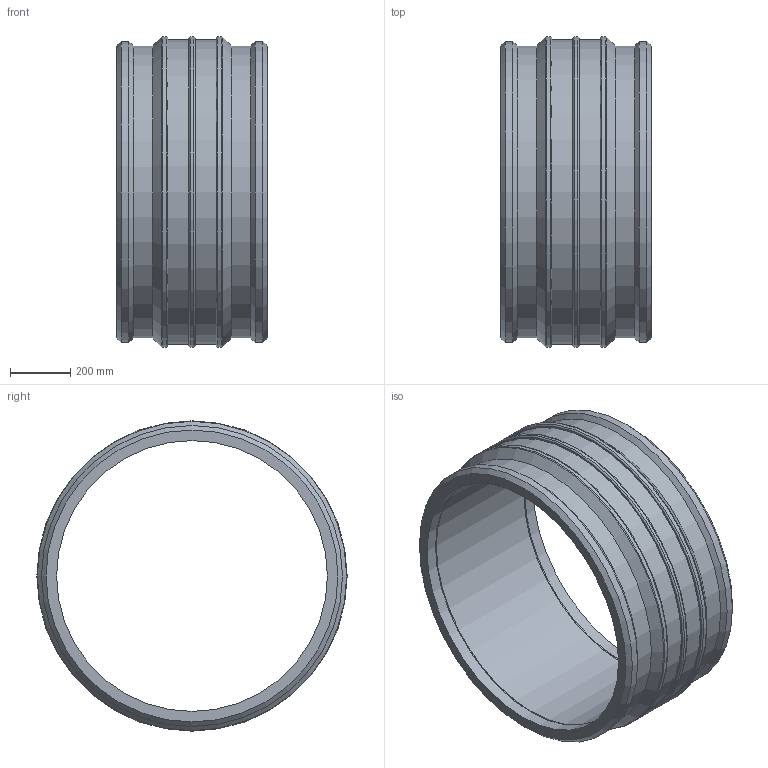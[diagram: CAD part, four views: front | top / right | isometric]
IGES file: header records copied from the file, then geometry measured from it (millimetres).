
Global section: file name: 460103900.ipt; native system: Autodesk Inventor 2015; preprocessor: unknown; author: KIM; date: 20190124.125948; units: millimetre
Bounding box: 500 x 1031 x 1031 mm (x, y, z)
Volume: 72463235.5 mm3; surface area: 3449923.1 mm2
Topology: 1 solids, 1 shells, 48 faces, 106 edges, 70 vertices
Faces by surface type: cylinder 15, plane 14, revolution 13, cone 6
Full cylindrical faces by diameter (mm): 4 x2, 970 x2, 1000 x2, 1010.38 x2, 1031 x3
